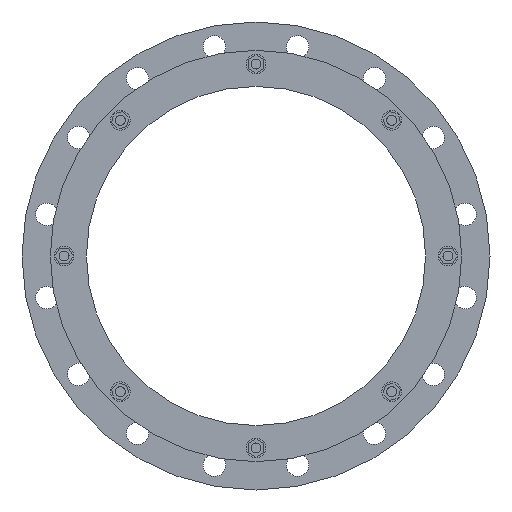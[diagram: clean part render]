
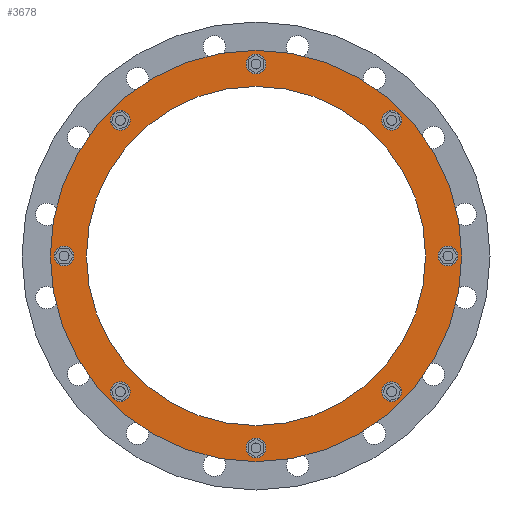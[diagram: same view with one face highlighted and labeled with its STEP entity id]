
A CAD part, front view. The second image highlights one B-rep face of the part: STEP entity #3678.
In plain terms, the highlighted planar face has unit normal (0, -1, 0).
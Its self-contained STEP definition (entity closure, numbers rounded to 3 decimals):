
#914=CARTESIAN_POINT('',(0.,-99.452,0.));
#915=DIRECTION('',(0.,-1.,0.));
#916=DIRECTION('',(1.,0.,0.));
#917=AXIS2_PLACEMENT_3D('',#914,#915,#916);
#919=CARTESIAN_POINT('',(0.,-99.452,0.));
#920=DIRECTION('',(0.,1.,0.));
#921=DIRECTION('',(1.,0.,0.));
#922=AXIS2_PLACEMENT_3D('',#919,#920,#921);
#924=CARTESIAN_POINT('',(231.75,-99.452,0.));
#925=DIRECTION('',(0.,-1.,0.));
#926=DIRECTION('',(0.,0.,-1.));
#927=AXIS2_PLACEMENT_3D('',#924,#925,#926);
#929=CARTESIAN_POINT('',(231.75,-99.452,0.));
#930=DIRECTION('',(0.,-1.,0.));
#931=DIRECTION('',(0.,0.,1.));
#932=AXIS2_PLACEMENT_3D('',#929,#930,#931);
#934=CARTESIAN_POINT('',(163.872,-99.452,163.872));
#935=DIRECTION('',(0.,-1.,0.));
#936=DIRECTION('',(0.707,0.,-0.707));
#937=AXIS2_PLACEMENT_3D('',#934,#935,#936);
#939=CARTESIAN_POINT('',(163.872,-99.452,163.872));
#940=DIRECTION('',(0.,-1.,0.));
#941=DIRECTION('',(-0.707,0.,0.707));
#942=AXIS2_PLACEMENT_3D('',#939,#940,#941);
#944=CARTESIAN_POINT('',(0.,-99.452,231.75));
#945=DIRECTION('',(0.,-1.,0.));
#946=DIRECTION('',(1.,0.,0.));
#947=AXIS2_PLACEMENT_3D('',#944,#945,#946);
#949=CARTESIAN_POINT('',(0.,-99.452,231.75));
#950=DIRECTION('',(0.,-1.,0.));
#951=DIRECTION('',(-1.,0.,0.));
#952=AXIS2_PLACEMENT_3D('',#949,#950,#951);
#954=CARTESIAN_POINT('',(-163.872,-99.452,163.872));
#955=DIRECTION('',(0.,-1.,0.));
#956=DIRECTION('',(0.707,0.,0.707));
#957=AXIS2_PLACEMENT_3D('',#954,#955,#956);
#959=CARTESIAN_POINT('',(-163.872,-99.452,163.872));
#960=DIRECTION('',(0.,-1.,0.));
#961=DIRECTION('',(-0.707,0.,-0.707));
#962=AXIS2_PLACEMENT_3D('',#959,#960,#961);
#964=CARTESIAN_POINT('',(-231.75,-99.452,0.));
#965=DIRECTION('',(0.,-1.,0.));
#966=DIRECTION('',(0.,0.,1.));
#967=AXIS2_PLACEMENT_3D('',#964,#965,#966);
#969=CARTESIAN_POINT('',(-231.75,-99.452,0.));
#970=DIRECTION('',(0.,-1.,0.));
#971=DIRECTION('',(0.,0.,-1.));
#972=AXIS2_PLACEMENT_3D('',#969,#970,#971);
#974=CARTESIAN_POINT('',(-163.872,-99.452,-163.872));
#975=DIRECTION('',(0.,-1.,0.));
#976=DIRECTION('',(-0.707,0.,0.707));
#977=AXIS2_PLACEMENT_3D('',#974,#975,#976);
#979=CARTESIAN_POINT('',(-163.872,-99.452,-163.872));
#980=DIRECTION('',(0.,-1.,0.));
#981=DIRECTION('',(0.707,0.,-0.707));
#982=AXIS2_PLACEMENT_3D('',#979,#980,#981);
#984=CARTESIAN_POINT('',(0.,-99.452,-231.75));
#985=DIRECTION('',(0.,-1.,0.));
#986=DIRECTION('',(-1.,0.,0.));
#987=AXIS2_PLACEMENT_3D('',#984,#985,#986);
#989=CARTESIAN_POINT('',(0.,-99.452,-231.75));
#990=DIRECTION('',(0.,-1.,0.));
#991=DIRECTION('',(1.,0.,0.));
#992=AXIS2_PLACEMENT_3D('',#989,#990,#991);
#994=CARTESIAN_POINT('',(163.872,-99.452,-163.872));
#995=DIRECTION('',(0.,-1.,0.));
#996=DIRECTION('',(-0.707,0.,-0.707));
#997=AXIS2_PLACEMENT_3D('',#994,#995,#996);
#999=CARTESIAN_POINT('',(163.872,-99.452,-163.872));
#1000=DIRECTION('',(0.,-1.,0.));
#1001=DIRECTION('',(0.707,0.,0.707));
#1002=AXIS2_PLACEMENT_3D('',#999,#1000,#1001);
#1004=CARTESIAN_POINT('',(0.,-99.452,0.));
#1005=DIRECTION('',(0.,1.,0.));
#1006=DIRECTION('',(1.,0.,0.));
#1007=AXIS2_PLACEMENT_3D('',#1004,#1005,#1006);
#1017=CARTESIAN_POINT('',(0.,-99.452,0.));
#1018=DIRECTION('',(0.,-1.,0.));
#1019=DIRECTION('',(1.,0.,0.));
#1020=AXIS2_PLACEMENT_3D('',#1017,#1018,#1019);
#2391=CARTESIAN_POINT('',(248.35,-99.452,0.));
#2393=VERTEX_POINT('',#2391);
#2394=CARTESIAN_POINT('',(204.75,-99.452,0.));
#2396=VERTEX_POINT('',#2394);
#2403=CARTESIAN_POINT('',(-248.35,-99.452,0.));
#2405=VERTEX_POINT('',#2403);
#2406=CARTESIAN_POINT('',(-204.75,-99.452,0.));
#2408=VERTEX_POINT('',#2406);
#2445=CARTESIAN_POINT('',(231.75,-99.452,-12.));
#2446=CARTESIAN_POINT('',(231.75,-99.452,12.));
#2447=VERTEX_POINT('',#2445);
#2448=VERTEX_POINT('',#2446);
#2494=CARTESIAN_POINT('',(172.357,-99.452,155.387));
#2495=VERTEX_POINT('',#2494);
#2496=CARTESIAN_POINT('',(155.387,-99.452,172.357));
#2497=VERTEX_POINT('',#2496);
#2538=CARTESIAN_POINT('',(12.,-99.452,231.75));
#2539=VERTEX_POINT('',#2538);
#2540=CARTESIAN_POINT('',(-12.,-99.452,231.75));
#2541=VERTEX_POINT('',#2540);
#2582=CARTESIAN_POINT('',(-155.387,-99.452,172.357));
#2583=VERTEX_POINT('',#2582);
#2584=CARTESIAN_POINT('',(-172.357,-99.452,155.387));
#2585=VERTEX_POINT('',#2584);
#2626=CARTESIAN_POINT('',(-231.75,-99.452,12.));
#2627=VERTEX_POINT('',#2626);
#2628=CARTESIAN_POINT('',(-231.75,-99.452,-12.));
#2629=VERTEX_POINT('',#2628);
#2670=CARTESIAN_POINT('',(-172.357,-99.452,-155.387));
#2671=VERTEX_POINT('',#2670);
#2672=CARTESIAN_POINT('',(-155.387,-99.452,-172.357));
#2673=VERTEX_POINT('',#2672);
#2714=CARTESIAN_POINT('',(-12.,-99.452,-231.75));
#2715=VERTEX_POINT('',#2714);
#2716=CARTESIAN_POINT('',(12.,-99.452,-231.75));
#2717=VERTEX_POINT('',#2716);
#2758=CARTESIAN_POINT('',(155.387,-99.452,-172.357));
#2759=VERTEX_POINT('',#2758);
#2760=CARTESIAN_POINT('',(172.357,-99.452,-155.387));
#2761=VERTEX_POINT('',#2760);
#3615=CARTESIAN_POINT('',(0.,-99.452,0.));
#3616=DIRECTION('',(0.,1.,0.));
#3617=DIRECTION('',(-1.,0.,0.));
#3618=AXIS2_PLACEMENT_3D('',#3615,#3616,#3617);
#3619=PLANE('',#3618);
#3621=ORIENTED_EDGE('',*,*,#3620,.F.);
#3623=ORIENTED_EDGE('',*,*,#3622,.T.);
#3624=EDGE_LOOP('',(#3621,#3623));
#3625=FACE_OUTER_BOUND('',#3624,.F.);
#3627=ORIENTED_EDGE('',*,*,#3626,.F.);
#3629=ORIENTED_EDGE('',*,*,#3628,.T.);
#3630=EDGE_LOOP('',(#3627,#3629));
#3631=FACE_BOUND('',#3630,.F.);
#3633=ORIENTED_EDGE('',*,*,#3632,.T.);
#3635=ORIENTED_EDGE('',*,*,#3634,.T.);
#3636=EDGE_LOOP('',(#3633,#3635));
#3637=FACE_BOUND('',#3636,.F.);
#3639=ORIENTED_EDGE('',*,*,#3638,.T.);
#3641=ORIENTED_EDGE('',*,*,#3640,.T.);
#3642=EDGE_LOOP('',(#3639,#3641));
#3643=FACE_BOUND('',#3642,.F.);
#3645=ORIENTED_EDGE('',*,*,#3644,.T.);
#3647=ORIENTED_EDGE('',*,*,#3646,.T.);
#3648=EDGE_LOOP('',(#3645,#3647));
#3649=FACE_BOUND('',#3648,.F.);
#3651=ORIENTED_EDGE('',*,*,#3650,.T.);
#3653=ORIENTED_EDGE('',*,*,#3652,.T.);
#3654=EDGE_LOOP('',(#3651,#3653));
#3655=FACE_BOUND('',#3654,.F.);
#3657=ORIENTED_EDGE('',*,*,#3656,.T.);
#3659=ORIENTED_EDGE('',*,*,#3658,.T.);
#3660=EDGE_LOOP('',(#3657,#3659));
#3661=FACE_BOUND('',#3660,.F.);
#3663=ORIENTED_EDGE('',*,*,#3662,.T.);
#3665=ORIENTED_EDGE('',*,*,#3664,.T.);
#3666=EDGE_LOOP('',(#3663,#3665));
#3667=FACE_BOUND('',#3666,.F.);
#3668=ORIENTED_EDGE('',*,*,#3597,.T.);
#3669=ORIENTED_EDGE('',*,*,#3608,.T.);
#3670=EDGE_LOOP('',(#3668,#3669));
#3671=FACE_BOUND('',#3670,.F.);
#3673=ORIENTED_EDGE('',*,*,#3672,.T.);
#3675=ORIENTED_EDGE('',*,*,#3674,.T.);
#3676=EDGE_LOOP('',(#3673,#3675));
#3677=FACE_BOUND('',#3676,.F.);
#3678=ADVANCED_FACE('',(#3625,#3631,#3637,#3643,#3649,#3655,#3661,#3667,#3671,
#3677),#3619,.F.);
#918=CIRCLE('',#917,248.35);
#923=CIRCLE('',#922,248.35);
#928=CIRCLE('',#927,12.);
#933=CIRCLE('',#932,12.);
#938=CIRCLE('',#937,12.);
#943=CIRCLE('',#942,12.);
#948=CIRCLE('',#947,12.);
#953=CIRCLE('',#952,12.);
#958=CIRCLE('',#957,12.);
#963=CIRCLE('',#962,12.);
#968=CIRCLE('',#967,12.);
#973=CIRCLE('',#972,12.);
#978=CIRCLE('',#977,12.);
#983=CIRCLE('',#982,12.);
#988=CIRCLE('',#987,12.);
#993=CIRCLE('',#992,12.);
#998=CIRCLE('',#997,12.);
#1003=CIRCLE('',#1002,12.);
#1008=CIRCLE('',#1007,204.75);
#1021=CIRCLE('',#1020,204.75);
#3597=EDGE_CURVE('',#2715,#2717,#988,.T.);
#3608=EDGE_CURVE('',#2717,#2715,#993,.T.);
#3620=EDGE_CURVE('',#2393,#2405,#918,.T.);
#3622=EDGE_CURVE('',#2393,#2405,#923,.T.);
#3626=EDGE_CURVE('',#2396,#2408,#1008,.T.);
#3628=EDGE_CURVE('',#2396,#2408,#1021,.T.);
#3632=EDGE_CURVE('',#2447,#2448,#928,.T.);
#3634=EDGE_CURVE('',#2448,#2447,#933,.T.);
#3638=EDGE_CURVE('',#2495,#2497,#938,.T.);
#3640=EDGE_CURVE('',#2497,#2495,#943,.T.);
#3644=EDGE_CURVE('',#2539,#2541,#948,.T.);
#3646=EDGE_CURVE('',#2541,#2539,#953,.T.);
#3650=EDGE_CURVE('',#2583,#2585,#958,.T.);
#3652=EDGE_CURVE('',#2585,#2583,#963,.T.);
#3656=EDGE_CURVE('',#2627,#2629,#968,.T.);
#3658=EDGE_CURVE('',#2629,#2627,#973,.T.);
#3662=EDGE_CURVE('',#2671,#2673,#978,.T.);
#3664=EDGE_CURVE('',#2673,#2671,#983,.T.);
#3672=EDGE_CURVE('',#2759,#2761,#998,.T.);
#3674=EDGE_CURVE('',#2761,#2759,#1003,.T.);
